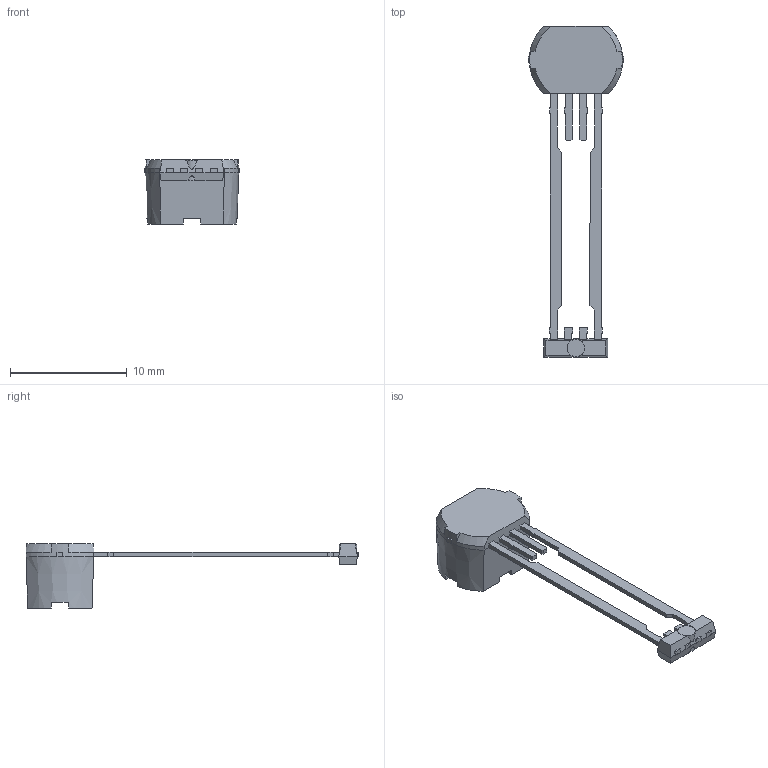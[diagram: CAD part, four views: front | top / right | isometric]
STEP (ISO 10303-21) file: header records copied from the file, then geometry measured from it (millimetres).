
FILE_DESCRIPTION (( 'STEP AP214' ), '1' );
FILE_NAME ('SH.STEP', '2016-10-25T19:39:40', ( '' ), ( '' ), 'SwSTEP 2.0', 'SolidWorks 2014', '' );
FILE_SCHEMA (( 'AUTOMOTIVE_DESIGN' ));
Length unit declared in the file: millimetre
Products named in the file (1): SH
Bounding box: 8.2 x 28.4 x 5.5 mm (x, y, z)
Volume: 240.8 mm3; surface area: 377.3 mm2
Topology: 1 solids, 1 shells, 188 faces, 520 edges, 332 vertices
Faces by surface type: plane 166, cylinder 12, cone 10
Entity records: 8014 total; most frequent: CARTESIAN_POINT 1173, ORIENTED_EDGE 1040, DIRECTION 914, EDGE_CURVE 520, LINE 424, VECTOR 424, VERTEX_POINT 332, AXIS2_PLACEMENT_3D 245
